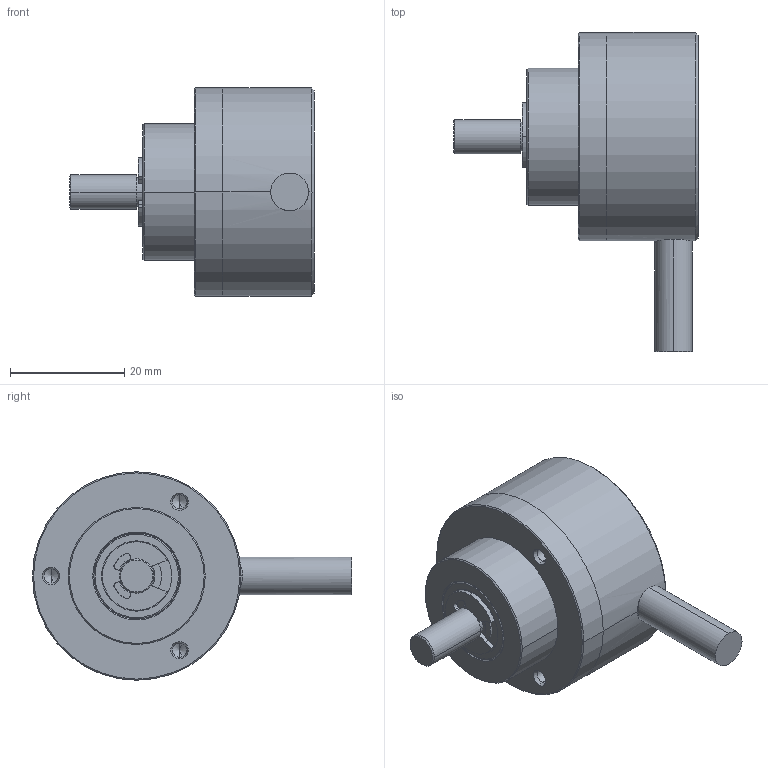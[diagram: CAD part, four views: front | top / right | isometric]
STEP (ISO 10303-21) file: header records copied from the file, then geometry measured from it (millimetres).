
FILE_DESCRIPTION (( 'STEP AP214' ), '1' );
FILE_NAME ('ËÈÐ-ÌÈ137Á_3 èñï.STEP', '2017-05-23T08:33:37', ( '' ), ( '' ), 'SwSTEP 2.0', 'SolidWorks 2013', '' );
FILE_SCHEMA (( 'AUTOMOTIVE_DESIGN' ));
Length unit declared in the file: millimetre
Products named in the file (1): ËÈÐ-ÌÈ137Á_3 èñï
Bounding box: 42.8 x 55.86 x 36.5 mm (x, y, z)
Volume: 17180.6 mm3; surface area: 15213.7 mm2
Topology: 13 solids, 13 shells, 761 faces, 2224 edges, 1439 vertices
Faces by surface type: cylinder 275, sphere 192, cone 124, torus 92, plane 67, bspline 11
Entity records: 43848 total; most frequent: CARTESIAN_POINT 16425, ORIENTED_EDGE 4416, DIRECTION 3614, EDGE_CURVE 2208, AXIS2_PLACEMENT_3D 1577, VERTEX_POINT 1439, EDGE_LOOP 841, CIRCLE 826
